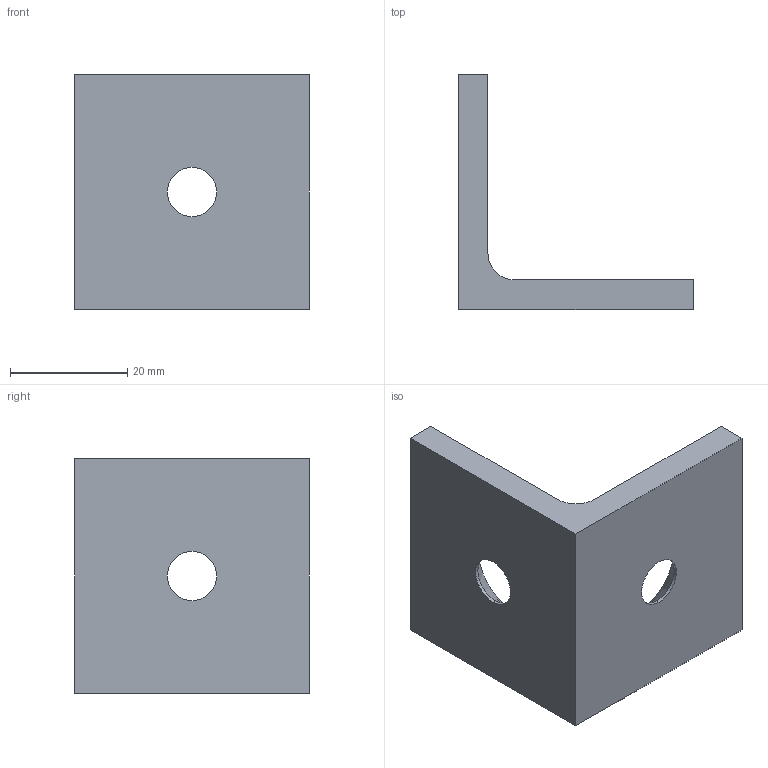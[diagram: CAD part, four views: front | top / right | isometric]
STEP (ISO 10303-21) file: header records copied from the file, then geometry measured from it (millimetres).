
FILE_DESCRIPTION (( 'STEP AP203' ), '1' );
FILE_NAME ('358035_Winkel 40x40x40 t=5, 2x Am 8, schwarz.step', '2022-04-12T06:43:38', ( '' ), ( '' ), 'SwSTEP 2.0', 'SolidWorks 2021', '' );
FILE_SCHEMA (( 'CONFIG_CONTROL_DESIGN' ));
Length unit declared in the file: millimetre
Products named in the file (1): 358035_Winkel 40x40x40 t=5, 2x Am 8, schwarz
Bounding box: 40 x 40 x 40 mm (x, y, z)
Volume: 13912.5 mm3; surface area: 7037.6 mm2
Topology: 1 solids, 1 shells, 17 faces, 41 edges, 26 vertices
Faces by surface type: plane 8, cylinder 5, cone 4
Entity records: 582 total; most frequent: DIRECTION 91, CARTESIAN_POINT 85, ORIENTED_EDGE 82, EDGE_CURVE 41, AXIS2_PLACEMENT_3D 32, VECTOR 27, LINE 27, VERTEX_POINT 26
